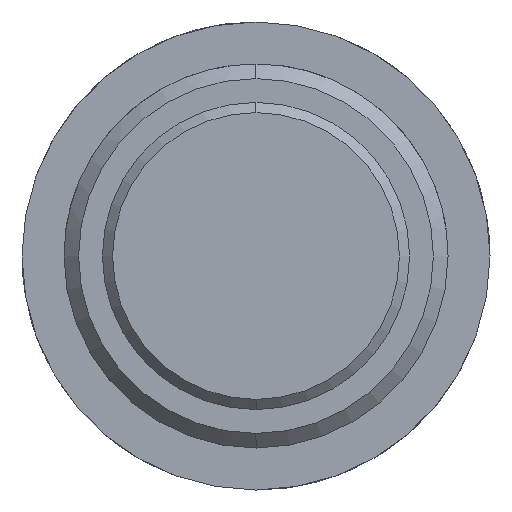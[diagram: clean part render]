
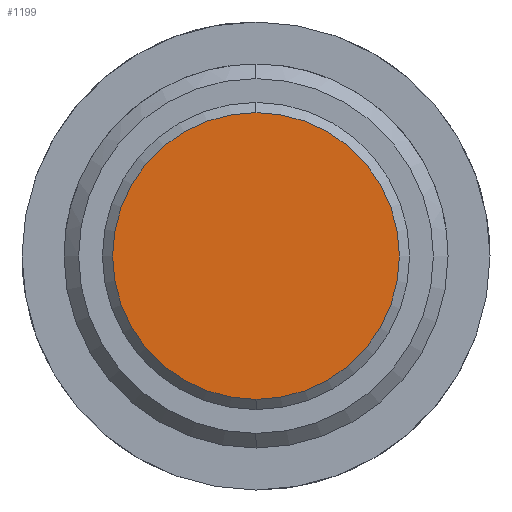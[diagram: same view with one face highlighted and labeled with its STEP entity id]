
A CAD part, left-side view. The second image highlights one B-rep face of the part: STEP entity #1199.
In plain terms, the highlighted planar face has unit normal (-1, 0, 0).
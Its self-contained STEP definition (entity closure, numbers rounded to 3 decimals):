
#1131=CARTESIAN_POINT('Vertex',(-18.5,0.,-11.95)) ;
#1134=CARTESIAN_POINT('Axis2P3D Location',(-18.5,0.,0.)) ;
#1138=CARTESIAN_POINT('Vertex',(-18.5,11.95,0.)) ;
#1141=CARTESIAN_POINT('Axis2P3D Location',(-18.5,0.,0.)) ;
#1145=CARTESIAN_POINT('Vertex',(-18.5,0.,11.95)) ;
#1167=CARTESIAN_POINT('Axis2P3D Location',(-18.5,0.,0.)) ;
#1171=CARTESIAN_POINT('Vertex',(-18.5,-11.95,0.)) ;
#1174=CARTESIAN_POINT('Axis2P3D Location',(-18.5,0.,0.)) ;
#1188=CARTESIAN_POINT('Axis2P3D Location',(-18.5,0.,0.)) ;
#1135=DIRECTION('Axis2P3D Direction',(1.,0.,-0.)) ;
#1142=DIRECTION('Axis2P3D Direction',(1.,0.,-0.)) ;
#1168=DIRECTION('Axis2P3D Direction',(1.,0.,-0.)) ;
#1175=DIRECTION('Axis2P3D Direction',(1.,0.,-0.)) ;
#1189=DIRECTION('Axis2P3D Direction',(1.,0.,-0.)) ;
#1190=DIRECTION('Axis2P3D XDirection',(-0.,0.,-1.)) ;
#1136=AXIS2_PLACEMENT_3D('Circle Axis2P3D',#1134,#1135,$) ;
#1143=AXIS2_PLACEMENT_3D('Circle Axis2P3D',#1141,#1142,$) ;
#1169=AXIS2_PLACEMENT_3D('Circle Axis2P3D',#1167,#1168,$) ;
#1176=AXIS2_PLACEMENT_3D('Circle Axis2P3D',#1174,#1175,$) ;
#1191=AXIS2_PLACEMENT_3D('Plane Axis2P3D',#1188,#1189,#1190) ;
#1194=ORIENTED_EDGE('',*,*,#1140,.F.) ;
#1195=ORIENTED_EDGE('',*,*,#1178,.F.) ;
#1196=ORIENTED_EDGE('',*,*,#1173,.F.) ;
#1197=ORIENTED_EDGE('',*,*,#1147,.F.) ;
#1199=ADVANCED_FACE('AGS3302M16',(#1198),#1192,.F.) ;
#1137=CIRCLE('generated circle',#1136,11.95) ;
#1144=CIRCLE('generated circle',#1143,11.95) ;
#1170=CIRCLE('generated circle',#1169,11.95) ;
#1177=CIRCLE('generated circle',#1176,11.95) ;
#1140=EDGE_CURVE('',#1132,#1139,#1137,.T.) ;
#1147=EDGE_CURVE('',#1139,#1146,#1144,.T.) ;
#1173=EDGE_CURVE('',#1146,#1172,#1170,.T.) ;
#1178=EDGE_CURVE('',#1172,#1132,#1177,.T.) ;
#1193=EDGE_LOOP('',(#1194,#1195,#1196,#1197)) ;
#1198=FACE_OUTER_BOUND('',#1193,.T.) ;
#1192=PLANE('Plane',#1191) ;
#1132=VERTEX_POINT('',#1131) ;
#1139=VERTEX_POINT('',#1138) ;
#1146=VERTEX_POINT('',#1145) ;
#1172=VERTEX_POINT('',#1171) ;
